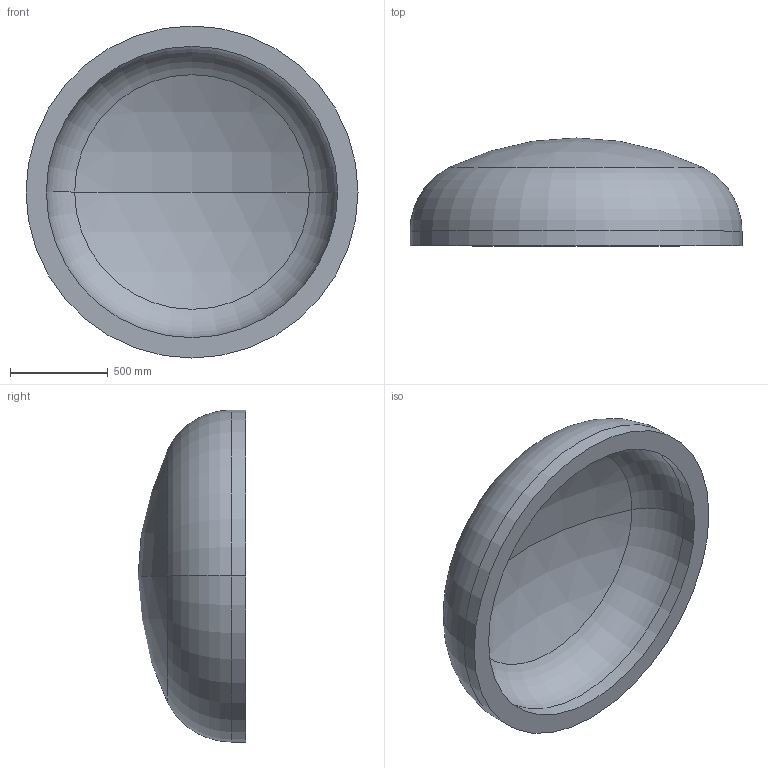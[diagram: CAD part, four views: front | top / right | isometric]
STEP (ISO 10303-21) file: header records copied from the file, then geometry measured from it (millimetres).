
FILE_DESCRIPTION (( 'STEP AP203' ), '1' );
FILE_NAME ('DIN 28013 Korbbogenform_-_Boden DIN 28013 - 1700 x 75 - I - s=104.step', '2016-07-01T12:08:49', ( '' ), ( '' ), 'SwSTEP 2.0', 'SolidWorks 2013', '' );
FILE_SCHEMA (( 'CONFIG_CONTROL_DESIGN' ));
Length unit declared in the file: millimetre
Products named in the file (1): DIN 28013 Korbbogenform_-_Boden DIN 28013 - 1700 x 75 - I - s=104
Bounding box: 1700 x 552.18 x 1700 mm (x, y, z)
Volume: 341113635.9 mm3; surface area: 7103983 mm2
Topology: 1 solids, 1 shells, 13 faces, 24 edges, 14 vertices
Faces by surface type: torus 4, cylinder 4, sphere 4, plane 1
Entity records: 407 total; most frequent: DIRECTION 72, CARTESIAN_POINT 52, ORIENTED_EDGE 48, AXIS2_PLACEMENT_3D 34, EDGE_CURVE 24, CIRCLE 20, VERTEX_POINT 14, EDGE_LOOP 14
